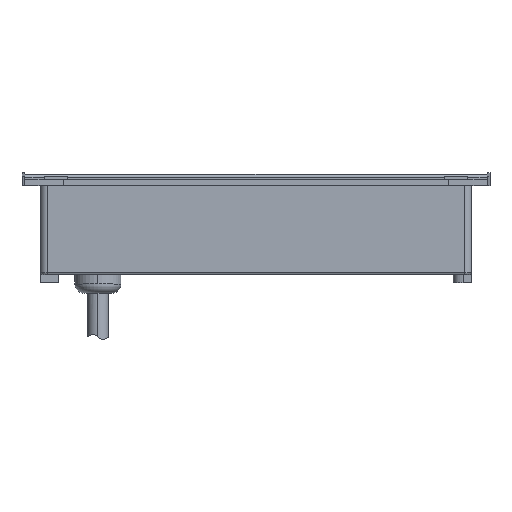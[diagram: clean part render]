
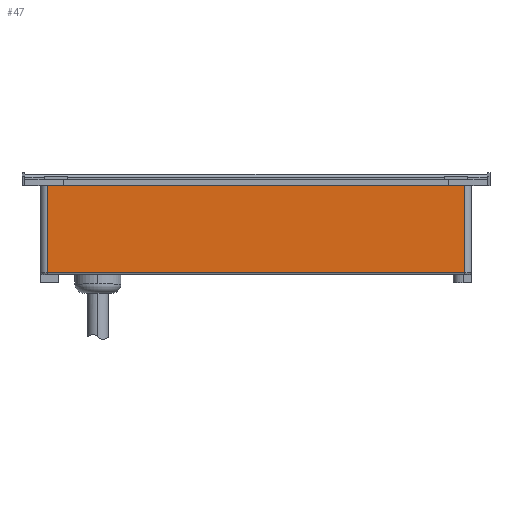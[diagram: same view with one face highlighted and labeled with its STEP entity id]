
A CAD part, top view. The second image highlights one B-rep face of the part: STEP entity #47.
In plain terms, the highlighted planar face has unit normal (0, 0, 1).
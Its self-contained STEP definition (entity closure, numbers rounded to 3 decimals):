
#47 = ADVANCED_FACE ( 'NONE', ( #5902 ), #1645, .F. ) ;
#226 = VERTEX_POINT ( 'NONE', #4354 ) ;
#334 = DIRECTION ( 'NONE',  ( 0., 0., -1. ) ) ;
#960 = CARTESIAN_POINT ( 'NONE',  ( 90.65, 41.5, 25.75 ) ) ;
#1113 = DIRECTION ( 'NONE',  ( 0., -1., 0. ) ) ;
#1571 = VECTOR ( 'NONE', #6974, 1000. ) ;
#1639 = LINE ( 'NONE', #960, #1571 ) ;
#1645 = PLANE ( 'NONE',  #7303 ) ;
#1705 = VECTOR ( 'NONE', #1113, 1000. ) ;
#1756 = CARTESIAN_POINT ( 'NONE',  ( -90.65, 41.5, 25.75 ) ) ;
#2641 = EDGE_CURVE ( 'NONE', #226, #4453, #4450, .T. ) ;
#3366 = VECTOR ( 'NONE', #3919, 1000. ) ;
#3421 = EDGE_CURVE ( 'NONE', #6152, #4453, #1639, .T. ) ;
#3919 = DIRECTION ( 'NONE',  ( 1., 0., 0. ) ) ;
#4194 = EDGE_LOOP ( 'NONE', ( #7419, #5933, #4946, #4892 ) ) ;
#4354 = CARTESIAN_POINT ( 'NONE',  ( -90.65, 38.8, 25.75 ) ) ;
#4450 = LINE ( 'NONE', #5810, #7790 ) ;
#4453 = VERTEX_POINT ( 'NONE', #7746 ) ;
#4892 = ORIENTED_EDGE ( 'NONE', *, *, #2641, .F. ) ;
#4946 = ORIENTED_EDGE ( 'NONE', *, *, #3421, .T. ) ;
#5208 = VERTEX_POINT ( 'NONE', #6967 ) ;
#5266 = DIRECTION ( 'NONE',  ( -1., 0., 0. ) ) ;
#5312 = CARTESIAN_POINT ( 'NONE',  ( -93.65, 41.5, 25.75 ) ) ;
#5414 = LINE ( 'NONE', #1756, #1705 ) ;
#5457 = EDGE_CURVE ( 'NONE', #226, #5208, #5414, .T. ) ;
#5810 = CARTESIAN_POINT ( 'NONE',  ( -90.65, 38.8, 25.75 ) ) ;
#5902 = FACE_OUTER_BOUND ( 'NONE', #4194, .T. ) ;
#5933 = ORIENTED_EDGE ( 'NONE', *, *, #7514, .T. ) ;
#6152 = VERTEX_POINT ( 'NONE', #7812 ) ;
#6282 = DIRECTION ( 'NONE',  ( 1., 0., 0. ) ) ;
#6945 = LINE ( 'NONE', #7537, #3366 ) ;
#6967 = CARTESIAN_POINT ( 'NONE',  ( -90.65, 1., 25.75 ) ) ;
#6974 = DIRECTION ( 'NONE',  ( 0., 1., 0. ) ) ;
#7303 = AXIS2_PLACEMENT_3D ( 'NONE', #5312, #334, #5266 ) ;
#7419 = ORIENTED_EDGE ( 'NONE', *, *, #5457, .T. ) ;
#7514 = EDGE_CURVE ( 'NONE', #5208, #6152, #6945, .T. ) ;
#7537 = CARTESIAN_POINT ( 'NONE',  ( 90.65, 1., 25.75 ) ) ;
#7746 = CARTESIAN_POINT ( 'NONE',  ( 90.65, 38.8, 25.75 ) ) ;
#7790 = VECTOR ( 'NONE', #6282, 1000. ) ;
#7812 = CARTESIAN_POINT ( 'NONE',  ( 90.65, 1., 25.75 ) ) ;
